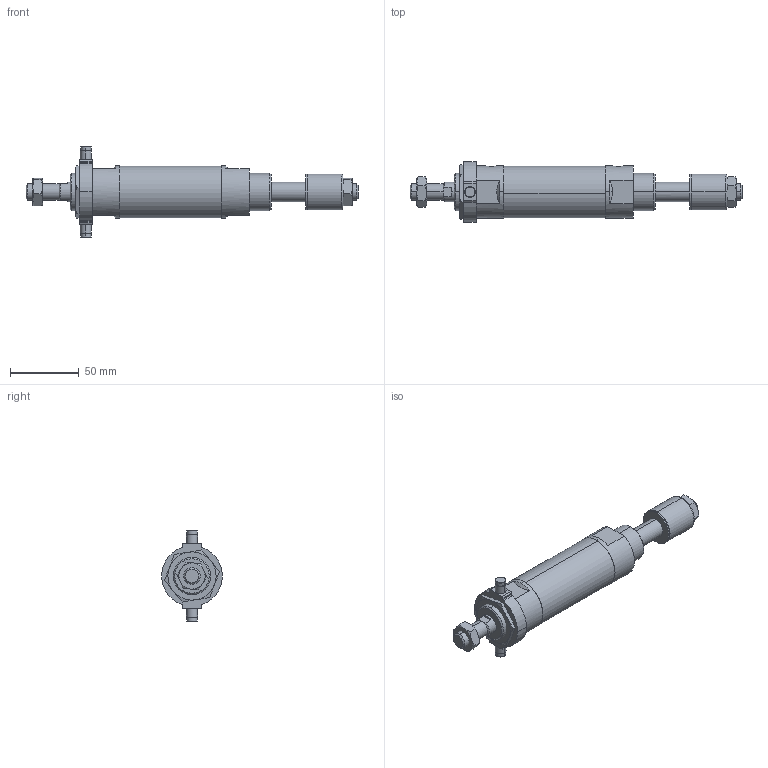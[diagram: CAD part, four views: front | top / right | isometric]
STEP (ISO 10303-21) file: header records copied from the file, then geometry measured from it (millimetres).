
FILE_DESCRIPTION (( 'STEP AP203' ), '1' );
FILE_NAME ('JGA7-32-25-T.STEP', '2016-04-20T01:58:10', ( '' ), ( '' ), 'SwSTEP 2.0', 'SolidWorks 2014', '' );
FILE_SCHEMA (( 'CONFIG_CONTROL_DESIGN' ));
Length unit declared in the file: millimetre
Products named in the file (8): JGA7-32-25-T; JGA7-32A-25; JGLH2-32B; M27x2-3mm; 32-25; M12x1.25-7mm; J#2-32-T; JGA7-32-Turn
Assembly tree (8 placements, depth 2):
  JGA7-32-25-T
    JGLH2-32B
    32-25
    JGA7-32A-25
    M12x1.25-7mm  x2
    M27x2-3mm
    J#2-32-T
    JGA7-32-Turn
Bounding box: 241 x 44 x 66 mm (x, y, z)
Volume: 178894.3 mm3; surface area: 40446.6 mm2
Topology: 8 solids, 8 shells, 188 faces, 417 edges, 252 vertices
Faces by surface type: plane 61, cylinder 59, torus 38, cone 30
Entity records: 5919 total; most frequent: CARTESIAN_POINT 1368, DIRECTION 819, ORIENTED_EDGE 730, EDGE_CURVE 365, AXIS2_PLACEMENT_3D 343, VERTEX_POINT 224, EDGE_LOOP 185, FACE_OUTER_BOUND 166
